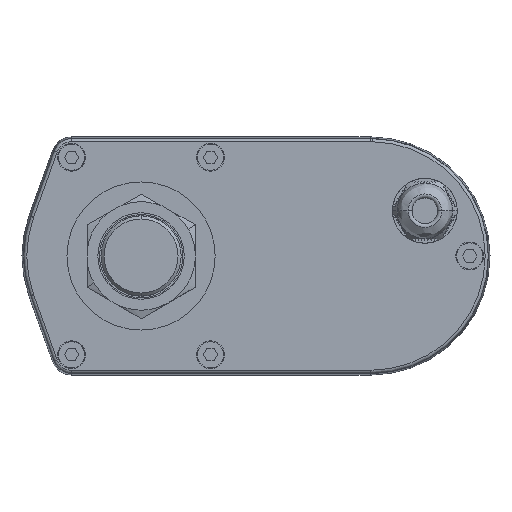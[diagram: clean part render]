
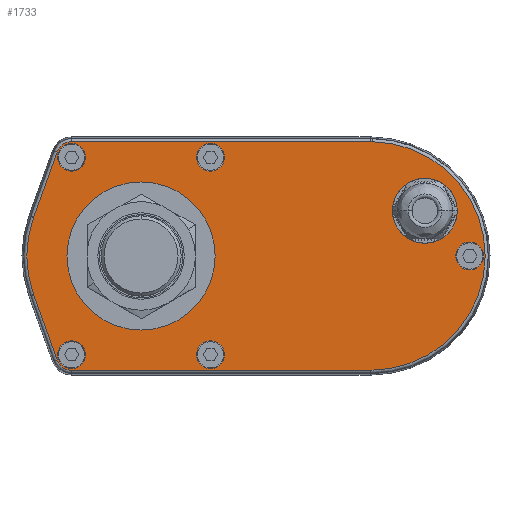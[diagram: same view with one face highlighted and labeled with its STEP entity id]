
A CAD part, left-side view. The second image highlights one B-rep face of the part: STEP entity #1733.
In plain terms, the highlighted planar face has unit normal (-1, 0, 0).
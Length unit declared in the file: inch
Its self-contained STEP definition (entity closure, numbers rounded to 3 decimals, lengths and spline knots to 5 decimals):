
#1733=ADVANCED_FACE('',(#4187,#4188,#4189,#4190,#4191,#4192,#4193,#4194),#4195,.F.);
#4187=FACE_OUTER_BOUND('',#8402,.T.);
#4188=FACE_BOUND('',#8403,.T.);
#4189=FACE_BOUND('',#8404,.T.);
#4190=FACE_BOUND('',#8405,.T.);
#4191=FACE_BOUND('',#8406,.T.);
#4192=FACE_BOUND('',#8407,.T.);
#4193=FACE_BOUND('',#8408,.T.);
#4194=FACE_BOUND('',#8409,.T.);
#4195=PLANE('',#8410);
#8402=EDGE_LOOP('',(#16020,#16021,#16022,#16023,#16024,#16025,#16026,#16027,#16028));
#8403=EDGE_LOOP('',(#16029,#16030));
#8404=EDGE_LOOP('',(#16031,#16032));
#8405=EDGE_LOOP('',(#16033,#16034));
#8406=EDGE_LOOP('',(#16035,#16036));
#8407=EDGE_LOOP('',(#16037,#16038));
#8408=EDGE_LOOP('',(#16039,#16040));
#8409=EDGE_LOOP('',(#16041,#16042));
#8410=AXIS2_PLACEMENT_3D('',#16043,#16044,#16045);
#16020=ORIENTED_EDGE('',*,*,#24231,.T.);
#16021=ORIENTED_EDGE('',*,*,#24232,.T.);
#16022=ORIENTED_EDGE('',*,*,#24233,.T.);
#16023=ORIENTED_EDGE('',*,*,#24234,.T.);
#16024=ORIENTED_EDGE('',*,*,#24235,.T.);
#16025=ORIENTED_EDGE('',*,*,#23893,.T.);
#16026=ORIENTED_EDGE('',*,*,#24236,.T.);
#16027=ORIENTED_EDGE('',*,*,#23297,.T.);
#16028=ORIENTED_EDGE('',*,*,#24237,.T.);
#16029=ORIENTED_EDGE('',*,*,#24238,.F.);
#16030=ORIENTED_EDGE('',*,*,#23316,.F.);
#16031=ORIENTED_EDGE('',*,*,#24239,.F.);
#16032=ORIENTED_EDGE('',*,*,#23868,.F.);
#16033=ORIENTED_EDGE('',*,*,#24240,.F.);
#16034=ORIENTED_EDGE('',*,*,#24241,.F.);
#16035=ORIENTED_EDGE('',*,*,#23150,.F.);
#16036=ORIENTED_EDGE('',*,*,#24214,.F.);
#16037=ORIENTED_EDGE('',*,*,#23834,.F.);
#16038=ORIENTED_EDGE('',*,*,#24242,.F.);
#16039=ORIENTED_EDGE('',*,*,#24243,.F.);
#16040=ORIENTED_EDGE('',*,*,#24244,.F.);
#16041=ORIENTED_EDGE('',*,*,#24245,.F.);
#16042=ORIENTED_EDGE('',*,*,#24246,.F.);
#16043=CARTESIAN_POINT('',(-3.85039,0.,0.));
#16044=DIRECTION('',(1.0,0.0,0.0));
#16045=DIRECTION('',(0.0,1.0,0.0));
#23150=EDGE_CURVE('',#26926,#26921,#26928,.T.);
#23297=EDGE_CURVE('',#27179,#27184,#27186,.T.);
#23316=EDGE_CURVE('',#27219,#27214,#27221,.T.);
#23834=EDGE_CURVE('',#28082,#28069,#28084,.T.);
#23868=EDGE_CURVE('',#28137,#28132,#28139,.T.);
#23893=EDGE_CURVE('',#28177,#28175,#28178,.T.);
#24214=EDGE_CURVE('',#26921,#26926,#28704,.T.);
#24231=EDGE_CURVE('',#28733,#28734,#28735,.T.);
#24232=EDGE_CURVE('',#28734,#28736,#28737,.T.);
#24233=EDGE_CURVE('',#28736,#28738,#28739,.T.);
#24234=EDGE_CURVE('',#28738,#28740,#28741,.T.);
#24235=EDGE_CURVE('',#28740,#28177,#28742,.T.);
#24236=EDGE_CURVE('',#28175,#27179,#28743,.T.);
#24237=EDGE_CURVE('',#27184,#28733,#28744,.T.);
#24238=EDGE_CURVE('',#27214,#27219,#28745,.T.);
#24239=EDGE_CURVE('',#28132,#28137,#28746,.T.);
#24240=EDGE_CURVE('',#28747,#28748,#28749,.T.);
#24241=EDGE_CURVE('',#28748,#28747,#28750,.T.);
#24242=EDGE_CURVE('',#28069,#28082,#28751,.T.);
#24243=EDGE_CURVE('',#28752,#28753,#28754,.T.);
#24244=EDGE_CURVE('',#28753,#28752,#28755,.T.);
#24245=EDGE_CURVE('',#28756,#28757,#28758,.T.);
#24246=EDGE_CURVE('',#28757,#28756,#28759,.T.);
#26921=VERTEX_POINT('',#32314);
#26926=VERTEX_POINT('',#32320);
#26928=CIRCLE('',#32323,0.17717);
#27179=VERTEX_POINT('',#32770);
#27184=VERTEX_POINT('',#32776);
#27186=LINE('',#32778,#32779);
#27214=VERTEX_POINT('',#32813);
#27219=VERTEX_POINT('',#32819);
#27221=CIRCLE('',#32822,0.94488);
#28069=VERTEX_POINT('',#34243);
#28082=VERTEX_POINT('',#34259);
#28084=CIRCLE('',#34262,0.17717);
#28132=VERTEX_POINT('',#34345);
#28137=VERTEX_POINT('',#34351);
#28139=CIRCLE('',#34354,0.17717);
#28175=VERTEX_POINT('',#34410);
#28177=VERTEX_POINT('',#34412);
#28178=CIRCLE('',#34413,1.45737);
#28704=CIRCLE('',#35313,0.17717);
#28733=VERTEX_POINT('',#35387);
#28734=VERTEX_POINT('',#35388);
#28735=LINE('',#35389,#35390);
#28736=VERTEX_POINT('',#35391);
#28737=CIRCLE('',#35392,1.45737);
#28738=VERTEX_POINT('',#35393);
#28739=LINE('',#35394,#35395);
#28740=VERTEX_POINT('',#35396);
#28741=CIRCLE('',#35397,0.19753);
#28742=LINE('',#35398,#35399);
#28743=CIRCLE('',#35400,1.45737);
#28744=CIRCLE('',#35401,0.19753);
#28745=CIRCLE('',#35402,0.94488);
#28746=CIRCLE('',#35403,0.17717);
#28747=VERTEX_POINT('',#35404);
#28748=VERTEX_POINT('',#35405);
#28749=CIRCLE('',#35406,0.17717);
#28750=CIRCLE('',#35407,0.17717);
#28751=CIRCLE('',#35408,0.17717);
#28752=VERTEX_POINT('',#35409);
#28753=VERTEX_POINT('',#35410);
#28754=CIRCLE('',#35411,0.17717);
#28755=CIRCLE('',#35412,0.17717);
#28756=VERTEX_POINT('',#35413);
#28757=VERTEX_POINT('',#35414);
#28758=CIRCLE('',#35415,0.24606);
#28759=CIRCLE('',#35416,0.24606);
#32314=CARTESIAN_POINT('',(-3.85039,-0.88583,-1.08268));
#32320=CARTESIAN_POINT('',(-3.85039,-0.88583,-1.43701));
#32323=AXIS2_PLACEMENT_3D('',#40909,#40910,#40911);
#32770=CARTESIAN_POINT('',(-3.85039,-2.93307,1.45737));
#32776=CARTESIAN_POINT('',(-3.85039,0.88583,1.45737));
#32778=CARTESIAN_POINT('',(-3.85039,-2.93307,1.45737));
#32779=VECTOR('',#41082,3.8189);
#32813=CARTESIAN_POINT('',(-3.85039,0.,-0.94488));
#32819=CARTESIAN_POINT('',(-3.85039,0.,0.94488));
#32822=AXIS2_PLACEMENT_3D('',#41115,#41116,#41117);
#34243=CARTESIAN_POINT('',(-3.85039,0.88583,-1.08268));
#34259=CARTESIAN_POINT('',(-3.85039,0.88583,-1.43701));
#34262=AXIS2_PLACEMENT_3D('',#41802,#41803,#41804);
#34345=CARTESIAN_POINT('',(-3.85039,0.88583,1.08268));
#34351=CARTESIAN_POINT('',(-3.85039,0.88583,1.43701));
#34354=AXIS2_PLACEMENT_3D('',#41840,#41841,#41842);
#34410=CARTESIAN_POINT('',(-3.85039,-2.94857,1.45729));
#34412=CARTESIAN_POINT('',(-3.85039,-2.93307,-1.45737));
#34413=AXIS2_PLACEMENT_3D('',#41871,#41872,#41873);
#35313=AXIS2_PLACEMENT_3D('',#42320,#42321,#42322);
#35387=CARTESIAN_POINT('',(-3.85039,1.07171,1.32668));
#35388=CARTESIAN_POINT('',(-3.85039,1.37142,0.49309));
#35389=CARTESIAN_POINT('',(-3.85039,1.07171,1.32668));
#35390=VECTOR('',#42336,0.88583);
#35391=CARTESIAN_POINT('',(-3.85039,1.37142,-0.49309));
#35392=AXIS2_PLACEMENT_3D('',#42337,#42338,#42339);
#35393=CARTESIAN_POINT('',(-3.85039,1.07171,-1.32668));
#35394=CARTESIAN_POINT('',(-3.85039,1.37142,-0.49309));
#35395=VECTOR('',#42340,0.88583);
#35396=CARTESIAN_POINT('',(-3.85039,0.88583,-1.45737));
#35397=AXIS2_PLACEMENT_3D('',#42341,#42342,#42343);
#35398=CARTESIAN_POINT('',(-3.85039,0.88583,-1.45737));
#35399=VECTOR('',#42344,3.8189);
#35400=AXIS2_PLACEMENT_3D('',#42345,#42346,#42347);
#35401=AXIS2_PLACEMENT_3D('',#42348,#42349,#42350);
#35402=AXIS2_PLACEMENT_3D('',#42351,#42352,#42353);
#35403=AXIS2_PLACEMENT_3D('',#42354,#42355,#42356);
#35404=CARTESIAN_POINT('',(-3.85039,-0.88583,1.08268));
#35405=CARTESIAN_POINT('',(-3.85039,-0.88583,1.43701));
#35406=AXIS2_PLACEMENT_3D('',#42357,#42358,#42359);
#35407=AXIS2_PLACEMENT_3D('',#42360,#42361,#42362);
#35408=AXIS2_PLACEMENT_3D('',#42363,#42364,#42365);
#35409=CARTESIAN_POINT('',(-3.85039,-4.19291,-0.17717));
#35410=CARTESIAN_POINT('',(-3.85039,-4.19291,0.17717));
#35411=AXIS2_PLACEMENT_3D('',#42366,#42367,#42368);
#35412=AXIS2_PLACEMENT_3D('',#42369,#42370,#42371);
#35413=CARTESIAN_POINT('',(-3.85039,-3.6207,0.33093));
#35414=CARTESIAN_POINT('',(-3.85039,-3.6207,0.82305));
#35415=AXIS2_PLACEMENT_3D('',#42372,#42373,#42374);
#35416=AXIS2_PLACEMENT_3D('',#42375,#42376,#42377);
#40909=CARTESIAN_POINT('',(-3.85039,-0.88583,-1.25984));
#40910=DIRECTION('',(-1.0,0.0,0.0));
#40911=DIRECTION('',(0.0,0.0,-1.0));
#41082=DIRECTION('',(0.0,1.0,0.0));
#41115=CARTESIAN_POINT('',(-3.85039,0.,0.));
#41116=DIRECTION('',(-1.0,0.0,0.0));
#41117=DIRECTION('',(0.0,0.0,1.0));
#41802=CARTESIAN_POINT('',(-3.85039,0.88583,-1.25984));
#41803=DIRECTION('',(-1.0,0.0,0.0));
#41804=DIRECTION('',(0.0,0.0,-1.0));
#41840=CARTESIAN_POINT('',(-3.85039,0.88583,1.25984));
#41841=DIRECTION('',(-1.0,0.0,0.0));
#41842=DIRECTION('',(0.0,0.0,1.0));
#41871=CARTESIAN_POINT('',(-3.85039,-2.93307,0.));
#41872=DIRECTION('',(-1.0,0.0,0.0));
#41873=DIRECTION('',(0.0,0.0,-1.0));
#42320=CARTESIAN_POINT('',(-3.85039,-0.88583,-1.25984));
#42321=DIRECTION('',(-1.0,0.0,0.0));
#42322=DIRECTION('',(0.0,0.0,1.0));
#42336=DIRECTION('',(0.0,0.338,-0.941));
#42337=CARTESIAN_POINT('',(-3.85039,0.,0.));
#42338=DIRECTION('',(-1.0,0.0,0.0));
#42339=DIRECTION('',(0.0,0.941,0.338));
#42340=DIRECTION('',(0.0,-0.338,-0.941));
#42341=CARTESIAN_POINT('',(-3.85039,0.88583,-1.25984));
#42342=DIRECTION('',(-1.0,0.0,0.0));
#42343=DIRECTION('',(0.0,0.941,-0.338));
#42344=DIRECTION('',(0.0,-1.0,0.0));
#42345=CARTESIAN_POINT('',(-3.85039,-2.93307,0.));
#42346=DIRECTION('',(-1.0,0.0,0.0));
#42347=DIRECTION('',(0.0,0.0,-1.0));
#42348=CARTESIAN_POINT('',(-3.85039,0.88583,1.25984));
#42349=DIRECTION('',(-1.0,0.0,0.0));
#42350=DIRECTION('',(0.0,0.0,1.0));
#42351=CARTESIAN_POINT('',(-3.85039,0.,0.));
#42352=DIRECTION('',(-1.0,0.0,0.0));
#42353=DIRECTION('',(0.0,0.0,-1.0));
#42354=CARTESIAN_POINT('',(-3.85039,0.88583,1.25984));
#42355=DIRECTION('',(-1.0,0.0,0.0));
#42356=DIRECTION('',(0.0,0.0,-1.0));
#42357=CARTESIAN_POINT('',(-3.85039,-0.88583,1.25984));
#42358=DIRECTION('',(-1.0,0.0,0.0));
#42359=DIRECTION('',(0.0,0.0,-1.0));
#42360=CARTESIAN_POINT('',(-3.85039,-0.88583,1.25984));
#42361=DIRECTION('',(-1.0,0.0,0.0));
#42362=DIRECTION('',(0.0,0.0,1.0));
#42363=CARTESIAN_POINT('',(-3.85039,0.88583,-1.25984));
#42364=DIRECTION('',(-1.0,0.0,0.0));
#42365=DIRECTION('',(0.0,0.0,1.0));
#42366=CARTESIAN_POINT('',(-3.85039,-4.19291,0.));
#42367=DIRECTION('',(-1.0,0.0,0.0));
#42368=DIRECTION('',(0.0,0.0,-1.0));
#42369=CARTESIAN_POINT('',(-3.85039,-4.19291,0.));
#42370=DIRECTION('',(-1.0,0.0,0.0));
#42371=DIRECTION('',(0.0,0.0,1.0));
#42372=CARTESIAN_POINT('',(-3.85039,-3.6207,0.57699));
#42373=DIRECTION('',(-1.0,0.0,0.0));
#42374=DIRECTION('',(0.0,0.0,-1.0));
#42375=CARTESIAN_POINT('',(-3.85039,-3.6207,0.57699));
#42376=DIRECTION('',(-1.0,0.0,0.0));
#42377=DIRECTION('',(0.0,0.0,1.0));
